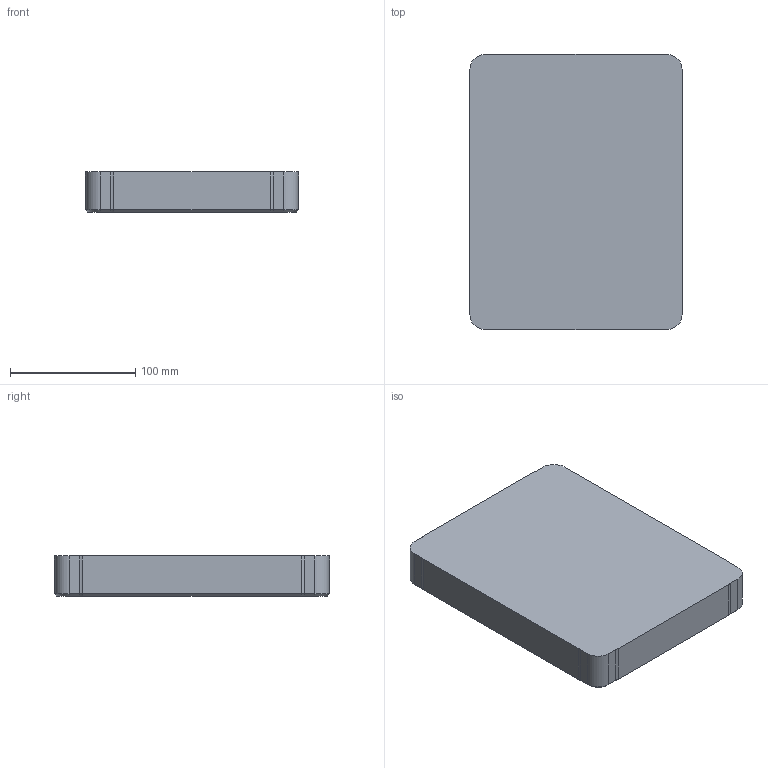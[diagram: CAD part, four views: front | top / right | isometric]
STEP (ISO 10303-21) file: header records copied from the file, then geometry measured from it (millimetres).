
FILE_DESCRIPTION (( 'STEP AP214' ), '1' );
FILE_NAME ('AS-Formeinsatz 170_220_32.STEP', '2024-02-26T13:41:06', ( '' ), ( '' ), 'SwSTEP 2.0', 'SolidWorks 2020', '' );
FILE_SCHEMA (( 'AUTOMOTIVE_DESIGN' ));
Length unit declared in the file: millimetre
Products named in the file (1): AS-Formeinsatz 170_220_32
Bounding box: 170 x 220 x 32 mm (x, y, z)
Volume: 1184267.9 mm3; surface area: 100047.3 mm2
Topology: 1 solids, 1 shells, 62 faces, 148 edges, 88 vertices
Faces by surface type: plane 26, cone 20, cylinder 16
Full cylindrical faces by diameter (mm): 8.5 x4
Entity records: 1710 total; most frequent: CARTESIAN_POINT 303, DIRECTION 298, ORIENTED_EDGE 264, EDGE_CURVE 132, AXIS2_PLACEMENT_3D 111, VERTEX_POINT 84, LINE 76, VECTOR 76
